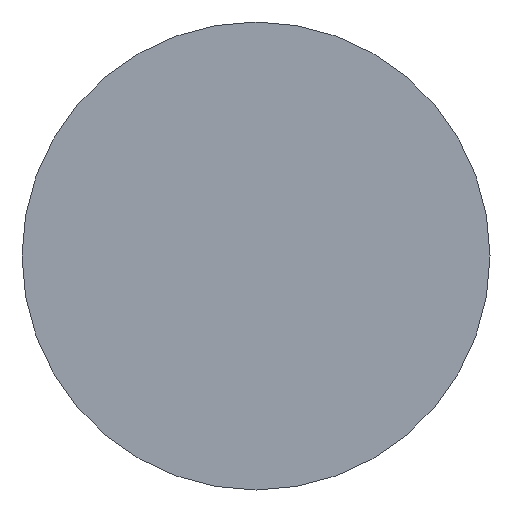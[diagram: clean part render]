
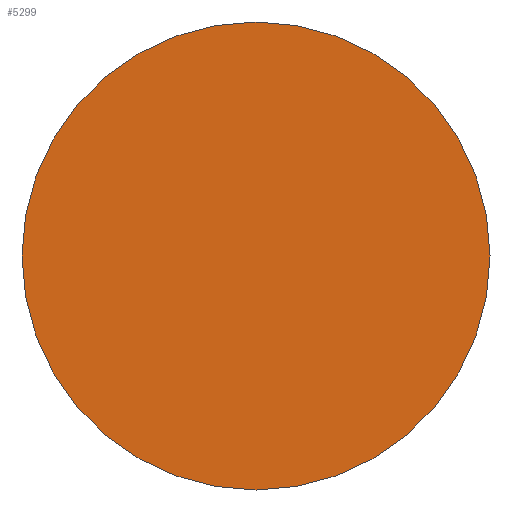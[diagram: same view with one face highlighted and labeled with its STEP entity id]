
A CAD part, front view. The second image highlights one B-rep face of the part: STEP entity #5299.
In plain terms, the highlighted planar face has unit normal (0, -1, 0).
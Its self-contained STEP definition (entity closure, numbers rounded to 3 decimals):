
#652 = DIRECTION ( 'NONE',  ( 0., 0., 1. ) ) ;
#653 = CARTESIAN_POINT ( 'NONE',  ( 0., 0., 0. ) ) ;
#769 = CARTESIAN_POINT ( 'NONE',  ( 0., 0., -12.5 ) ) ;
#969 = AXIS2_PLACEMENT_3D ( 'NONE', #6719, #4123, #1829 ) ;
#1034 = FACE_OUTER_BOUND ( 'NONE', #1098, .T. ) ;
#1098 = EDGE_LOOP ( 'NONE', ( #5696, #2611 ) ) ;
#1617 = CIRCLE ( 'NONE', #5665, 12.5 ) ;
#1829 = DIRECTION ( 'NONE',  ( 0., 0., 1. ) ) ;
#1950 = VERTEX_POINT ( 'NONE', #7069 ) ;
#2611 = ORIENTED_EDGE ( 'NONE', *, *, #3442, .F. ) ;
#2701 = PLANE ( 'NONE',  #4538 ) ;
#3376 = DIRECTION ( 'NONE',  ( 0., 1., 0. ) ) ;
#3442 = EDGE_CURVE ( 'NONE', #1950, #5373, #1617, .T. ) ;
#4123 = DIRECTION ( 'NONE',  ( 0., 1., 0. ) ) ;
#4502 = DIRECTION ( 'NONE',  ( 0., 0., 1. ) ) ;
#4538 = AXIS2_PLACEMENT_3D ( 'NONE', #653, #3376, #4502 ) ;
#4949 = EDGE_CURVE ( 'NONE', #5373, #1950, #6638, .T. ) ;
#5299 = ADVANCED_FACE ( 'NONE', ( #1034 ), #2701, .F. ) ;
#5373 = VERTEX_POINT ( 'NONE', #769 ) ;
#5627 = CARTESIAN_POINT ( 'NONE',  ( 0., 0., 0. ) ) ;
#5665 = AXIS2_PLACEMENT_3D ( 'NONE', #5627, #6703, #652 ) ;
#5696 = ORIENTED_EDGE ( 'NONE', *, *, #4949, .F. ) ;
#6638 = CIRCLE ( 'NONE', #969, 12.5 ) ;
#6703 = DIRECTION ( 'NONE',  ( 0., 1., 0. ) ) ;
#6719 = CARTESIAN_POINT ( 'NONE',  ( 0., 0., 0. ) ) ;
#7069 = CARTESIAN_POINT ( 'NONE',  ( 0., 0., 12.5 ) ) ;
